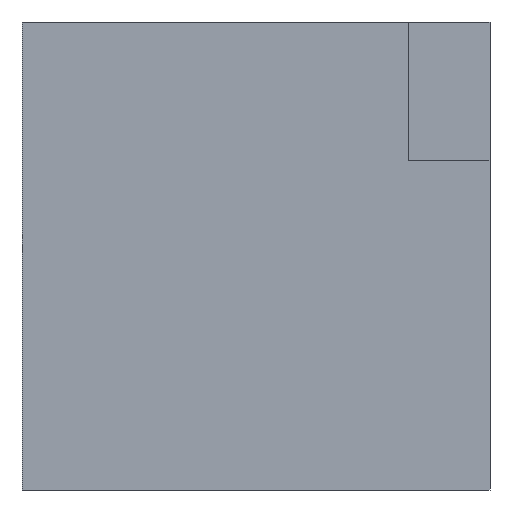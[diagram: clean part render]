
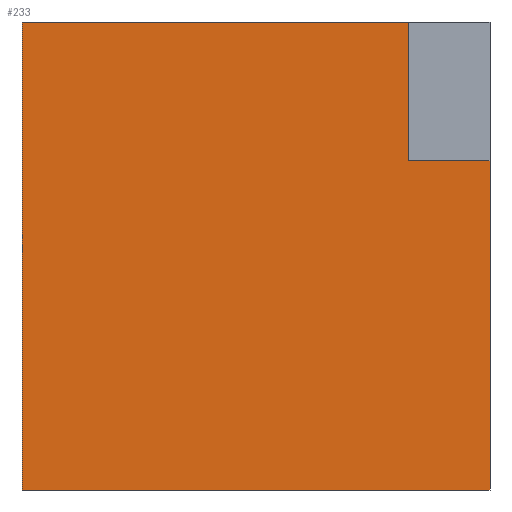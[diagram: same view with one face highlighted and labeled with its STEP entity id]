
A CAD part, front view. The second image highlights one B-rep face of the part: STEP entity #233.
In plain terms, the highlighted planar face has unit normal (0, -1, 0).
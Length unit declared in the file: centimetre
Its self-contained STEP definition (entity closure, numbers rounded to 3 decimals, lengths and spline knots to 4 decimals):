
#2 = VERTEX_POINT ( 'NONE', #180 ) ;
#3 = CARTESIAN_POINT ( 'NONE',  ( 0., 0., 1000. ) ) ;
#5 = DIRECTION ( 'NONE',  ( 1., 0., 0. ) ) ;
#25 = LINE ( 'NONE', #329, #29 ) ;
#29 = VECTOR ( 'NONE', #192, 100. ) ;
#41 = ORIENTED_EDGE ( 'NONE', *, *, #132, .F. ) ;
#46 = DIRECTION ( 'NONE',  ( 0., 0., 1. ) ) ;
#51 = EDGE_CURVE ( 'NONE', #307, #2, #324, .T. ) ;
#56 = CARTESIAN_POINT ( 'NONE',  ( 0., 0., 0. ) ) ;
#65 = DIRECTION ( 'NONE',  ( 1., 0., 0. ) ) ;
#83 = CARTESIAN_POINT ( 'NONE',  ( 825.0227, 0., 1000. ) ) ;
#85 = ORIENTED_EDGE ( 'NONE', *, *, #105, .F. ) ;
#98 = EDGE_CURVE ( 'NONE', #319, #178, #420, .T. ) ;
#104 = EDGE_LOOP ( 'NONE', ( #134, #85, #198, #347, #430, #41 ) ) ;
#105 = EDGE_CURVE ( 'NONE', #144, #307, #410, .T. ) ;
#129 = CARTESIAN_POINT ( 'NONE',  ( 0., 0., 0. ) ) ;
#132 = EDGE_CURVE ( 'NONE', #2, #178, #271, .T. ) ;
#134 = ORIENTED_EDGE ( 'NONE', *, *, #51, .F. ) ;
#140 = VERTEX_POINT ( 'NONE', #395 ) ;
#144 = VERTEX_POINT ( 'NONE', #83 ) ;
#161 = CARTESIAN_POINT ( 'NONE',  ( 825.0227, 0., 703.6894 ) ) ;
#164 = EDGE_CURVE ( 'NONE', #140, #319, #259, .T. ) ;
#177 = CARTESIAN_POINT ( 'NONE',  ( 825.0227, 0., 703.6894 ) ) ;
#178 = VERTEX_POINT ( 'NONE', #368 ) ;
#180 = CARTESIAN_POINT ( 'NONE',  ( 1000., 0., 703.6894 ) ) ;
#192 = DIRECTION ( 'NONE',  ( 1., 0., 0. ) ) ;
#196 = CARTESIAN_POINT ( 'NONE',  ( 1000., 0., 1000. ) ) ;
#198 = ORIENTED_EDGE ( 'NONE', *, *, #339, .F. ) ;
#216 = VECTOR ( 'NONE', #65, 100. ) ;
#228 = CARTESIAN_POINT ( 'NONE',  ( 0., 0., 1000. ) ) ;
#233 = ADVANCED_FACE ( 'NONE', ( #315 ), #357, .F. ) ;
#248 = DIRECTION ( 'NONE',  ( 0., 1., 0. ) ) ;
#255 = VECTOR ( 'NONE', #406, 100. ) ;
#259 = LINE ( 'NONE', #228, #255 ) ;
#271 = LINE ( 'NONE', #196, #323 ) ;
#282 = VECTOR ( 'NONE', #308, 100. ) ;
#283 = AXIS2_PLACEMENT_3D ( 'NONE', #3, #248, #46 ) ;
#307 = VERTEX_POINT ( 'NONE', #364 ) ;
#308 = DIRECTION ( 'NONE',  ( 0., 0., -1. ) ) ;
#315 = FACE_OUTER_BOUND ( 'NONE', #104, .T. ) ;
#319 = VERTEX_POINT ( 'NONE', #56 ) ;
#323 = VECTOR ( 'NONE', #415, 100. ) ;
#324 = LINE ( 'NONE', #177, #404 ) ;
#329 = CARTESIAN_POINT ( 'NONE',  ( 0., 0., 1000. ) ) ;
#339 = EDGE_CURVE ( 'NONE', #140, #144, #25, .T. ) ;
#347 = ORIENTED_EDGE ( 'NONE', *, *, #164, .T. ) ;
#357 = PLANE ( 'NONE',  #283 ) ;
#364 = CARTESIAN_POINT ( 'NONE',  ( 825.0227, 0., 703.6894 ) ) ;
#368 = CARTESIAN_POINT ( 'NONE',  ( 1000., 0., 0. ) ) ;
#395 = CARTESIAN_POINT ( 'NONE',  ( 0., 0., 1000. ) ) ;
#404 = VECTOR ( 'NONE', #5, 100. ) ;
#406 = DIRECTION ( 'NONE',  ( 0., 0., -1. ) ) ;
#410 = LINE ( 'NONE', #161, #282 ) ;
#415 = DIRECTION ( 'NONE',  ( 0., 0., -1. ) ) ;
#420 = LINE ( 'NONE', #129, #216 ) ;
#430 = ORIENTED_EDGE ( 'NONE', *, *, #98, .T. ) ;
